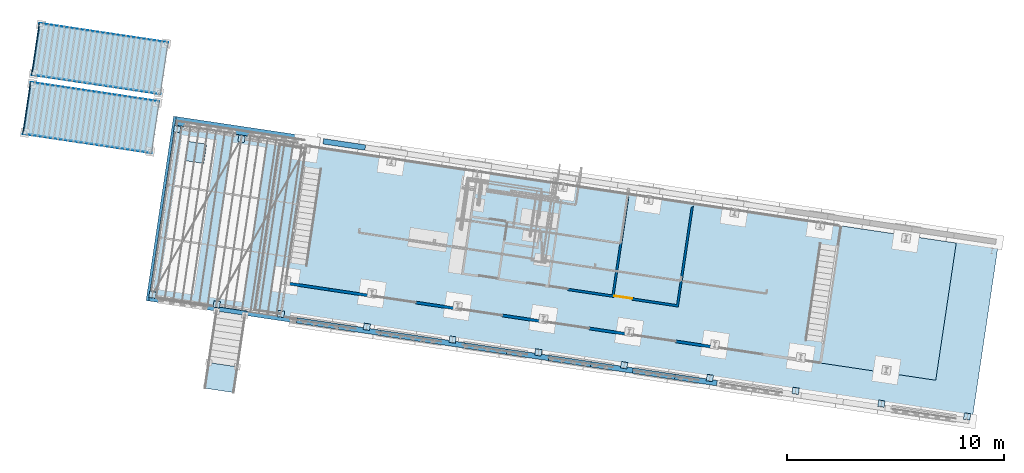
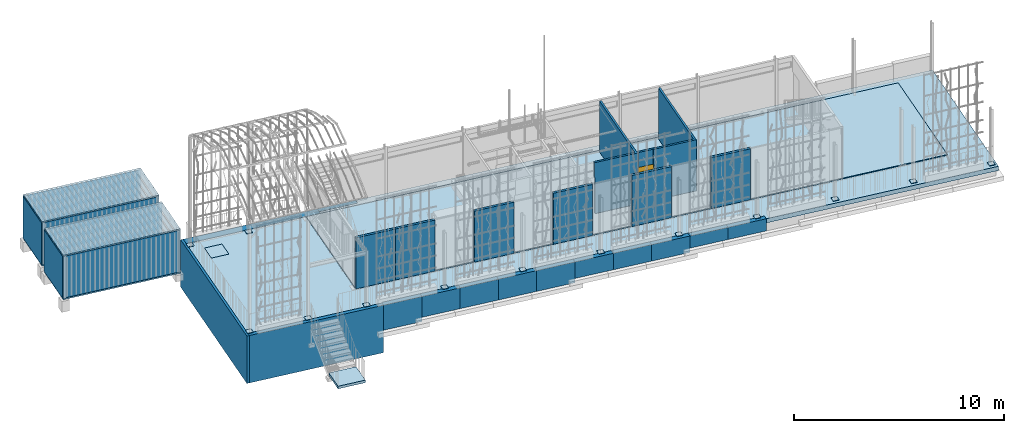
# One storey, part 129 of 142: 22 walls, 20 plates, 7 slabs, 1 door, 4 openings, 5 elements without a shape of their own.
"""IFC4 building model written with IfcOpenShell, lengths in metres."""

import ifcopenshell
import ifcopenshell.guid

model = None  # the IFC model being written
_history = None  # IfcOwnerHistory: only IFC2X3 demands one
_inside = {}  # id of a spatial element -> (the spatial element, [elements in it])
_under = {}  # id of a project, library or spatial element -> (it, [spatial elements below it])
_declared = {}  # id of a project -> (the project, [libraries it declares])
_typed = {}  # id of a type object -> (the type object, [elements of that type])
_made_of = {}  # id of a material, layer set ... -> (it, [elements and type objects made of it])


def new_model(schema):
    """Start an empty IFC model of exactly this schema.

    Asked for "IFC4X3", IfcOpenShell would pick the latest addendum, in which some entities
    have other attributes; the version numbers below select the first issue.
    IFC2X3 requires an IfcOwnerHistory on every rooted entity: one is made here for all.
    """
    global model, _history
    if schema == "IFC4X3":
        model = ifcopenshell.file(schema_version=(4, 3, 0, 0))
    else:
        model = ifcopenshell.file(schema=schema)
    _inside.clear()
    _under.clear()
    _declared.clear()
    _typed.clear()
    _made_of.clear()
    _history = None
    if model.schema == "IFC2X3":
        org = make("IfcOrganization", Name="unknown")
        user = make(
            "IfcPersonAndOrganization",
            ThePerson=make("IfcPerson", FamilyName="unknown"),
            TheOrganization=org,
        )
        app = make(
            "IfcApplication",
            ApplicationDeveloper=org,
            Version="unknown",
            ApplicationFullName="unknown",
            ApplicationIdentifier="unknown",
        )
        _history = make(
            "IfcOwnerHistory",
            OwningUser=user,
            OwningApplication=app,
            ChangeAction="ADDED",
            CreationDate=0,
        )
    return model


def make(cls, **values):
    """One entity of the class cls with the attributes given. An attribute that is None is left unset."""
    return model.create_entity(
        cls, **{name: value for name, value in values.items() if value is not None}
    )


def rooted(cls, **values):
    """An entity with a GlobalId (a new one), such as an element, a storey or a relation."""
    return make(cls, GlobalId=ifcopenshell.guid.new(), OwnerHistory=_history, **values)


def si_unit(unit_type, name, prefix=None):
    """IfcSIUnit, for example si_unit("LENGTHUNIT", "METRE", prefix="MILLI")."""
    return make("IfcSIUnit", UnitType=unit_type, Prefix=prefix, Name=name)


def assignment(units):
    """IfcUnitAssignment: the units of a project."""
    return None if units is None else make("IfcUnitAssignment", Units=units)


def point(xyz):
    """IfcCartesianPoint."""
    return None if xyz is None else make("IfcCartesianPoint", Coordinates=xyz)


def direction(xyz):
    """IfcDirection."""
    return None if xyz is None else make("IfcDirection", DirectionRatios=xyz)


def frame(location, z_axis=None, x_axis=None):
    """IfcAxis2Placement3D, a coordinate frame: its origin and axes. An axis left out is left unset."""
    return make(
        "IfcAxis2Placement3D",
        Location=point(location),
        Axis=direction(z_axis),
        RefDirection=direction(x_axis),
    )


def origin_with_axes():
    """The frame at (0, 0, 0) with the z axis (0, 0, 1) and the x axis (1, 0, 0) written out."""
    return frame((0.0, 0.0, 0.0), z_axis=(0.0, 0.0, 1.0), x_axis=(1.0, 0.0, 0.0))


def place(relative_to, where):
    """IfcLocalPlacement: puts the frame where relative to a parent placement (None: the world)."""
    return make(
        "IfcLocalPlacement", PlacementRelTo=relative_to, RelativePlacement=where
    )


def context(
    kind, dimensions, precision=None, world=None, true_north=None, identifier=None
):
    """IfcGeometricRepresentationContext, for example the 3D "Model" context."""
    return make(
        "IfcGeometricRepresentationContext",
        ContextIdentifier=identifier,
        ContextType=kind,
        CoordinateSpaceDimension=dimensions,
        Precision=precision,
        WorldCoordinateSystem=world,
        TrueNorth=true_north,
    )


def subcontext(parent, identifier, kind, view, scale=None):
    """IfcGeometricRepresentationSubContext, for example "Body" below "Model"."""
    return make(
        "IfcGeometricRepresentationSubContext",
        ContextIdentifier=identifier,
        ContextType=kind,
        ParentContext=parent,
        TargetScale=scale,
        TargetView=view,
    )


def project(units=None, contexts=None):
    """IfcProject with its units and contexts."""
    return rooted(
        "IfcProject",
        Name="project",
        RepresentationContexts=contexts,
        UnitsInContext=assignment(units),
    )


def spatial(cls, under=None, at=None, **own):
    """A site, building, storey or space (cls), placed at a placement, below another one or the project."""
    s = rooted(cls, ObjectPlacement=at, **own)
    if under is not None:
        _under.setdefault(under.id(), (under, []))[1].append(s)
    return s


def polyline(points):
    """IfcPolyline through the points."""
    return make("IfcPolyline", Points=[point(p) for p in points])


def outline(outer, holes=None, kind="AREA"):
    """IfcArbitraryClosedProfileDef: a profile drawn as a closed curve; with holes, ...WithVoids."""
    if holes is None:
        return make("IfcArbitraryClosedProfileDef", ProfileType=kind, OuterCurve=outer)
    return make(
        "IfcArbitraryProfileDefWithVoids",
        ProfileType=kind,
        OuterCurve=outer,
        InnerCurves=holes,
    )


def extrude(swept, where, along, depth):
    """IfcExtrudedAreaSolid: the profile swept, set in the frame where, extruded along a direction by depth."""
    return make(
        "IfcExtrudedAreaSolid",
        SweptArea=swept,
        Position=where,
        ExtrudedDirection=direction(along),
        Depth=depth,
    )


def shape(context_of_items, identifier, shape_type, items):
    """IfcShapeRepresentation: the items that make up one representation, for example the "Body"."""
    return make(
        "IfcShapeRepresentation",
        ContextOfItems=context_of_items,
        RepresentationIdentifier=identifier,
        RepresentationType=shape_type,
        Items=items,
    )


def material(Name=None, Category=None):
    """IfcMaterial."""
    return make("IfcMaterial", Name=Name, Category=Category)


def layer(
    of_material, thickness, ventilated=None, Name=None, Category=None, Priority=None
):
    """IfcMaterialLayer: one layer of a wall or slab, of a material (None: an air gap)."""
    return make(
        "IfcMaterialLayer",
        Material=of_material,
        LayerThickness=thickness,
        IsVentilated=ventilated,
        Name=Name,
        Category=Category,
        Priority=Priority,
    )


def layer_set(layers, Name=None):
    """IfcMaterialLayerSet."""
    return make("IfcMaterialLayerSet", MaterialLayers=layers, LayerSetName=Name)


def constituent(of_material, Name=None, Category=None, fraction=None):
    """IfcMaterialConstituent: one of the materials an element consists of."""
    return make(
        "IfcMaterialConstituent",
        Name=Name,
        Material=of_material,
        Fraction=fraction,
        Category=Category,
    )


def constituent_set(constituents=None, Name=None):
    """IfcMaterialConstituentSet."""
    return make(
        "IfcMaterialConstituentSet", Name=Name, MaterialConstituents=constituents
    )


def made_of(thing, what):
    """Note that an element or type object is made of a material, layer set ...; save() writes the relation."""
    if what is not None:
        _made_of.setdefault(what.id(), (what, []))[1].append(thing)
    return thing


def element(
    cls,
    number,
    at=None,
    inside=None,
    cuts=None,
    type_object=None,
    material=None,
    context=None,
    identifier="Body",
    shape_type=None,
    held_by="IfcProductDefinitionShape",
    body=None,
    shapes=None,
    **own,
):
    """One element of the class cls, such as IfcWall. Its Tag is "e" and its number.

    at: its placement. inside: the storey or other place that contains it. cuts: it is an
    opening in that element (IfcRelVoidsElement). A single representation is given by context,
    identifier, shape_type and body (its items); several are given by shapes. held_by: the class
    of the entity that holds the representations. save() writes the other relations.
    """
    e = rooted(cls, Tag="e%d" % number, ObjectPlacement=at, **own)
    if body is not None:
        shapes = [shape(context, identifier, shape_type, body)]
    if shapes is not None:
        e.Representation = make(held_by, Representations=shapes)
    if inside is not None:
        _inside.setdefault(inside.id(), (inside, []))[1].append(e)
    if cuts is not None:
        rooted(
            "IfcRelVoidsElement", RelatingBuildingElement=cuts, RelatedOpeningElement=e
        )
    if type_object is not None:
        _typed.setdefault(type_object.id(), (type_object, []))[1].append(e)
    return made_of(e, material)


def fill(opening, filler):
    """IfcRelFillsElement: the door or window that sits in an opening."""
    return rooted(
        "IfcRelFillsElement",
        RelatingOpeningElement=opening,
        RelatedBuildingElement=filler,
    )


def aggregate(whole, parts):
    """IfcRelAggregates: a whole, such as a stair, and the parts it consists of."""
    return rooted("IfcRelAggregates", RelatingObject=whole, RelatedObjects=parts)


def save(model, path):
    """Write the relations noted so far, then the file.

    IfcRelAggregates (storeys below a building ...), IfcRelContainedInSpatialStructure (elements
    in a storey), IfcRelDefinesByType, IfcRelAssociatesMaterial and IfcRelDeclares: one each for
    every whole, place, type object, material and project.
    """
    for whole, parts in _under.values():
        aggregate(whole, parts)
    for where, things in _inside.values():
        rooted(
            "IfcRelContainedInSpatialStructure",
            RelatedElements=things,
            RelatingStructure=where,
        )
    for kind, things in _typed.values():
        rooted("IfcRelDefinesByType", RelatedObjects=things, RelatingType=kind)
    for what, things in _made_of.values():
        rooted("IfcRelAssociatesMaterial", RelatedObjects=things, RelatingMaterial=what)
    for by, libraries in _declared.values():
        rooted("IfcRelDeclares", RelatingContext=by, RelatedDefinitions=libraries)
    model.write(path)


model = new_model("IFC4")

# Units and contexts
model_context = context("Model", 3, precision=1e-05, world=origin_with_axes(), true_north=direction((0.0, 1.0)))
body_context = subcontext(model_context, "Body", "Model", "MODEL_VIEW")
ifc_project = project(units=[si_unit("VOLUMEUNIT", "CUBIC_METRE"), si_unit("LENGTHUNIT", "METRE"), si_unit("AREAUNIT", "SQUARE_METRE")], contexts=[model_context])

# Site, building, storey
site_placement = place(None, origin_with_axes())
site = spatial("IfcSite", under=ifc_project, at=site_placement, Name="Lares · Rua das Mercês · artigo 4771")
building_placement = place(site_placement, frame((12.0, 10.2, 13.9), z_axis=(0.0, 0.0, 1.0), x_axis=(0.989015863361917, -0.147809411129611, 0.0)))
building = spatial("IfcBuilding", under=site, at=building_placement, Name="Casa Sobreposta")
storey_placement = place(building_placement, origin_with_axes())
storey = spatial("IfcBuildingStorey", under=building, at=storey_placement, Name="00 · Habitação e estacionamento", Elevation=13.9)

# Assembly, slabs, opening, plate
assembly_1_placement = place(storey_placement, origin_with_axes())
assembly_1 = element("IfcElementAssembly", 1, at=assembly_1_placement, inside=storey, Name="Pódio · projeção da estufa e cisterna", ObjectType="CISTERN_PODIUM", PredefinedType="USERDEFINED")
ifc_material_1 = material(Name="Betão armado / Stahlbeton", Category="concrete")
slab_1_placement = place(assembly_1_placement, frame((0.0, 0.0, -0.25), z_axis=(0.0, 0.0, 1.0), x_axis=(1.0, 0.0, 0.0)))
slab_1 = element("IfcSlab", 2, at=slab_1_placement, material=ifc_material_1, Name="Pódio · laje da casa 250 mm", PredefinedType="FLOOR", context=body_context, shape_type="SweptSolid", body=[
    extrude(outline(polyline([(30.32, 0.0), (30.32, 6.4), (0.0, 6.4), (0.0, 0.0), (30.32, 0.0)])), origin_with_axes(), (0.0, 0.0, 1.0), 0.25),
])
slab_2_placement = place(assembly_1_placement, frame((0.0, 0.0, -0.29), z_axis=(0.0, 0.0, 1.0), x_axis=(1.0, 0.0, 0.0)))
slab_2 = element("IfcSlab", 3, at=slab_2_placement, material=ifc_material_1, Name="Pódio · terraço e faixa sob projeção da estufa", PredefinedType="FLOOR", context=body_context, shape_type="SweptSolid", body=[
    extrude(outline(polyline([(-6.25, -1.75), (-6.25, 6.85), (32.25, 6.85), (32.25, -1.75), (-6.25, -1.75)]), holes=[polyline([(30.32, 6.4), (0.0, 6.4), (0.0, 0.0), (30.32, 0.0), (30.32, 6.4)])]), origin_with_axes(), (0.0, 0.0, 1.0), 0.25),
])
opening_1_placement = place(slab_2_placement, frame((0.0, 0.0, -0.06), z_axis=(0.0, 0.0, 1.0), x_axis=(1.0, 0.0, 0.0)))
element("IfcOpeningElement", 4, at=opening_1_placement, cuts=slab_2, Name="Cisterna · abertura de inspeção", PredefinedType="OPENING", context=body_context, shape_type="SweptSolid", body=[
    extrude(outline(polyline([(-4.55, 4.9), (-4.55, 5.8), (-5.45, 5.8), (-5.45, 4.9), (-4.55, 4.9)])), origin_with_axes(), (0.0, 0.0, 1.0), 0.4),
])
ifc_material_2 = material(Name="Aço galvanizado / Stahl verzinkt", Category="steel")
plate_1_placement = place(assembly_1_placement, frame((0.0, 0.0, -0.085), z_axis=(0.0, 0.0, 1.0), x_axis=(1.0, 0.0, 0.0)))
plate_1 = element("IfcPlate", 5, at=plate_1_placement, material=ifc_material_2, Name="Cisterna · tampa estanque de inspeção", PredefinedType="SHEET", context=body_context, shape_type="SweptSolid", body=[
    extrude(outline(polyline([(-4.55, 4.9), (-4.55, 5.8), (-5.45, 5.8), (-5.45, 4.9), (-4.55, 4.9)])), origin_with_axes(), (0.0, 0.0, 1.0), 0.045),
])

# Stair, slab
stair_placement = place(storey_placement, origin_with_axes())
stair = element("IfcStair", 6, at=stair_placement, inside=storey, Name="Jardim · acesso do terraço", PredefinedType="STRAIGHT_RUN_STAIR")
slab_3_placement = place(stair_placement, frame((0.0, 0.0, -1.6), z_axis=(0.0, 0.0, 1.0), x_axis=(1.0, 0.0, 0.0)))
slab_3 = element("IfcSlab", 7, at=slab_3_placement, material=ifc_material_1, Name="Jardim · patamar térreo", PredefinedType="LANDING", context=body_context, shape_type="SweptSolid", body=[
    extrude(outline(polyline([(-1.6, -5.35), (-1.6, -4.15), (-3.0, -4.15), (-3.0, -5.35), (-1.6, -5.35)])), origin_with_axes(), (0.0, 0.0, 1.0), 0.15),
])
aggregate(stair, [slab_3])

# Assembly, plates
assembly_2_placement = place(storey_placement, origin_with_axes())
assembly_2 = element("IfcElementAssembly", 8, at=assembly_2_placement, inside=storey, Name="Pérgola · prolongamento da estufa 6 m", ObjectType="PERGOLA_GREENHOUSE_EXTENSION", PredefinedType="USERDEFINED")
plate_2_placement = place(assembly_2_placement, frame((0.0, 0.0, -0.04), z_axis=(0.0, 0.0, 1.0), x_axis=(1.0, 0.0, 0.0)))
plate_2 = element("IfcPlate", 9, at=plate_2_placement, material=ifc_material_2, Name="Pérgola · chapa de ancoragem", PredefinedType="SHEET", context=body_context, shape_type="SweptSolid", body=[
    extrude(outline(polyline([(-5.85, -1.59), (-5.85, -1.29), (-6.15, -1.29), (-6.15, -1.59), (-5.85, -1.59)])), origin_with_axes(), (0.0, 0.0, 1.0), 0.025),
])
plate_3_placement = place(assembly_2_placement, frame((0.0, 0.0, -0.04), z_axis=(0.0, 0.0, 1.0), x_axis=(1.0, 0.0, 0.0)))
plate_3 = element("IfcPlate", 10, at=plate_3_placement, material=ifc_material_2, Name="Pérgola · chapa de ancoragem", PredefinedType="SHEET", context=body_context, shape_type="SweptSolid", body=[
    extrude(outline(polyline([(-5.85, 6.13), (-5.85, 6.43), (-6.15, 6.43), (-6.15, 6.13), (-5.85, 6.13)])), origin_with_axes(), (0.0, 0.0, 1.0), 0.025),
])
plate_4_placement = place(assembly_2_placement, frame((0.0, 0.0, -0.04), z_axis=(0.0, 0.0, 1.0), x_axis=(1.0, 0.0, 0.0)))
plate_4 = element("IfcPlate", 11, at=plate_4_placement, material=ifc_material_2, Name="Pérgola · chapa de ancoragem", PredefinedType="SHEET", context=body_context, shape_type="SweptSolid", body=[
    extrude(outline(polyline([(-2.85, -1.59), (-2.85, -1.29), (-3.15, -1.29), (-3.15, -1.59), (-2.85, -1.59)])), origin_with_axes(), (0.0, 0.0, 1.0), 0.025),
])
plate_5_placement = place(assembly_2_placement, frame((0.0, 0.0, -0.04), z_axis=(0.0, 0.0, 1.0), x_axis=(1.0, 0.0, 0.0)))
plate_5 = element("IfcPlate", 12, at=plate_5_placement, material=ifc_material_2, Name="Pérgola · chapa de ancoragem", PredefinedType="SHEET", context=body_context, shape_type="SweptSolid", body=[
    extrude(outline(polyline([(-2.85, 6.13), (-2.85, 6.43), (-3.15, 6.43), (-3.15, 6.13), (-2.85, 6.13)])), origin_with_axes(), (0.0, 0.0, 1.0), 0.025),
])
aggregate(assembly_2, [plate_2, plate_3, plate_4, plate_5])

# Plates
plate_6_placement = place(storey_placement, frame((0.0, 0.0, -0.04), z_axis=(0.0, 0.0, 1.0), x_axis=(1.0, 0.0, 0.0)))
element("IfcPlate", 13, at=plate_6_placement, inside=storey, material=ifc_material_2, Name="Projeção estufa · chapa de ancoragem", PredefinedType="SHEET", context=body_context, shape_type="SweptSolid", body=[
    extrude(outline(polyline([(0.15, -1.59), (0.15, -1.29), (-0.15, -1.29), (-0.15, -1.59), (0.15, -1.59)])), origin_with_axes(), (0.0, 0.0, 1.0), 0.025),
])
plate_7_placement = place(storey_placement, frame((0.0, 0.0, -0.04), z_axis=(0.0, 0.0, 1.0), x_axis=(1.0, 0.0, 0.0)))
element("IfcPlate", 14, at=plate_7_placement, inside=storey, material=ifc_material_2, Name="Projeção estufa · chapa de ancoragem", PredefinedType="SHEET", context=body_context, shape_type="SweptSolid", body=[
    extrude(outline(polyline([(4.15, -1.59), (4.15, -1.29), (3.85, -1.29), (3.85, -1.59), (4.15, -1.59)])), origin_with_axes(), (0.0, 0.0, 1.0), 0.025),
])
plate_8_placement = place(storey_placement, frame((0.0, 0.0, -0.04), z_axis=(0.0, 0.0, 1.0), x_axis=(1.0, 0.0, 0.0)))
element("IfcPlate", 15, at=plate_8_placement, inside=storey, material=ifc_material_2, Name="Projeção estufa · chapa de ancoragem", PredefinedType="SHEET", context=body_context, shape_type="SweptSolid", body=[
    extrude(outline(polyline([(8.15, -1.59), (8.15, -1.29), (7.85, -1.29), (7.85, -1.59), (8.15, -1.59)])), origin_with_axes(), (0.0, 0.0, 1.0), 0.025),
])
plate_9_placement = place(storey_placement, frame((0.0, 0.0, -0.04), z_axis=(0.0, 0.0, 1.0), x_axis=(1.0, 0.0, 0.0)))
element("IfcPlate", 16, at=plate_9_placement, inside=storey, material=ifc_material_2, Name="Projeção estufa · chapa de ancoragem", PredefinedType="SHEET", context=body_context, shape_type="SweptSolid", body=[
    extrude(outline(polyline([(12.15, -1.59), (12.15, -1.29), (11.85, -1.29), (11.85, -1.59), (12.15, -1.59)])), origin_with_axes(), (0.0, 0.0, 1.0), 0.025),
])
plate_10_placement = place(storey_placement, frame((0.0, 0.0, -0.04), z_axis=(0.0, 0.0, 1.0), x_axis=(1.0, 0.0, 0.0)))
element("IfcPlate", 17, at=plate_10_placement, inside=storey, material=ifc_material_2, Name="Projeção estufa · chapa de ancoragem", PredefinedType="SHEET", context=body_context, shape_type="SweptSolid", body=[
    extrude(outline(polyline([(16.15, -1.59), (16.15, -1.29), (15.85, -1.29), (15.85, -1.59), (16.15, -1.59)])), origin_with_axes(), (0.0, 0.0, 1.0), 0.025),
])
plate_11_placement = place(storey_placement, frame((0.0, 0.0, -0.04), z_axis=(0.0, 0.0, 1.0), x_axis=(1.0, 0.0, 0.0)))
element("IfcPlate", 18, at=plate_11_placement, inside=storey, material=ifc_material_2, Name="Projeção estufa · chapa de ancoragem", PredefinedType="SHEET", context=body_context, shape_type="SweptSolid", body=[
    extrude(outline(polyline([(20.15, -1.59), (20.15, -1.29), (19.85, -1.29), (19.85, -1.59), (20.15, -1.59)])), origin_with_axes(), (0.0, 0.0, 1.0), 0.025),
])
plate_12_placement = place(storey_placement, frame((0.0, 0.0, -0.04), z_axis=(0.0, 0.0, 1.0), x_axis=(1.0, 0.0, 0.0)))
element("IfcPlate", 19, at=plate_12_placement, inside=storey, material=ifc_material_2, Name="Projeção estufa · chapa de ancoragem", PredefinedType="SHEET", context=body_context, shape_type="SweptSolid", body=[
    extrude(outline(polyline([(24.15, -1.59), (24.15, -1.29), (23.85, -1.29), (23.85, -1.59), (24.15, -1.59)])), origin_with_axes(), (0.0, 0.0, 1.0), 0.025),
])
plate_13_placement = place(storey_placement, frame((0.0, 0.0, -0.04), z_axis=(0.0, 0.0, 1.0), x_axis=(1.0, 0.0, 0.0)))
element("IfcPlate", 20, at=plate_13_placement, inside=storey, material=ifc_material_2, Name="Projeção estufa · chapa de ancoragem", PredefinedType="SHEET", context=body_context, shape_type="SweptSolid", body=[
    extrude(outline(polyline([(28.15, -1.59), (28.15, -1.29), (27.85, -1.29), (27.85, -1.59), (28.15, -1.59)])), origin_with_axes(), (0.0, 0.0, 1.0), 0.025),
])
plate_14_placement = place(storey_placement, frame((0.0, 0.0, -0.04), z_axis=(0.0, 0.0, 1.0), x_axis=(1.0, 0.0, 0.0)))
element("IfcPlate", 21, at=plate_14_placement, inside=storey, material=ifc_material_2, Name="Projeção estufa · chapa de ancoragem", PredefinedType="SHEET", context=body_context, shape_type="SweptSolid", body=[
    extrude(outline(polyline([(32.15, -1.59), (32.15, -1.29), (31.85, -1.29), (31.85, -1.59), (32.15, -1.59)])), origin_with_axes(), (0.0, 0.0, 1.0), 0.025),
])

# Assembly, slabs, plates
assembly_3_placement = place(storey_placement, origin_with_axes())
assembly_3 = element("IfcElementAssembly", 22, at=assembly_3_placement, inside=storey, ObjectType="EXISTING_SHIPPING_CONTAINER", PredefinedType="USERDEFINED")
ifc_material_3 = material(Name="Contentor · pintura 1", Category="steel")
slab_4_placement = place(assembly_3_placement, frame((0.0, 0.0, -0.594226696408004), z_axis=(0.0, 0.0, 1.0), x_axis=(1.0, 0.0, 0.0)))
slab_4 = element("IfcSlab", 23, at=slab_4_placement, material=ifc_material_3, Name="Contentor · piso ou teto", PredefinedType="FLOOR", context=body_context, shape_type="SweptSolid", body=[
    extrude(outline(polyline([(-7.0, 5.0), (-7.0, 7.44), (-13.0, 7.44), (-13.0, 5.0), (-7.0, 5.0)])), origin_with_axes(), (0.0, 0.0, 1.0), 0.08),
])
slab_5_placement = place(assembly_3_placement, frame((0.0, 0.0, 1.915773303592), z_axis=(0.0, 0.0, 1.0), x_axis=(1.0, 0.0, 0.0)))
slab_5 = element("IfcSlab", 24, at=slab_5_placement, material=ifc_material_3, Name="Contentor · piso ou teto", PredefinedType="FLOOR", context=body_context, shape_type="SweptSolid", body=[
    extrude(outline(polyline([(-7.0, 5.0), (-7.0, 7.44), (-13.0, 7.44), (-13.0, 5.0), (-7.0, 5.0)])), origin_with_axes(), (0.0, 0.0, 1.0), 0.08),
])
plate_15_placement = place(assembly_3_placement, frame((0.0, 0.0, -0.514226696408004), z_axis=(0.0, 0.0, 1.0), x_axis=(1.0, 0.0, 0.0)))
plate_15 = element("IfcPlate", 25, at=plate_15_placement, material=ifc_material_3, Name="Contentor · chapa lateral", context=body_context, shape_type="SweptSolid", body=[
    extrude(outline(polyline([(-7.0, 5.0325), (-7.0, 5.0075), (-13.0, 5.0075), (-13.0, 5.0325), (-7.0, 5.0325)])), origin_with_axes(), (0.0, 0.0, 1.0), 2.43),
])
plate_16_placement = place(assembly_3_placement, frame((0.0, 0.0, -0.514226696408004), z_axis=(0.0, 0.0, 1.0), x_axis=(1.0, 0.0, 0.0)))
plate_16 = element("IfcPlate", 26, at=plate_16_placement, material=ifc_material_3, Name="Contentor · chapa lateral", context=body_context, shape_type="SweptSolid", body=[
    extrude(outline(polyline([(-7.0, 7.4325), (-7.0, 7.4075), (-13.0, 7.4075), (-13.0, 7.4325), (-7.0, 7.4325)])), origin_with_axes(), (0.0, 0.0, 1.0), 2.43),
])
plate_17_placement = place(assembly_3_placement, frame((0.0, 0.0, -0.514226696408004), z_axis=(0.0, 0.0, 1.0), x_axis=(1.0, 0.0, 0.0)))
plate_17 = element("IfcPlate", 27, at=plate_17_placement, material=ifc_material_3, Name="Contentor · chapa de fundo", context=body_context, shape_type="SweptSolid", body=[
    extrude(outline(polyline([(-13.025, 7.44), (-12.975, 7.44), (-12.975, 5.0), (-13.025, 5.0), (-13.025, 7.44)])), origin_with_axes(), (0.0, 0.0, 1.0), 2.43),
])
aggregate(assembly_3, [slab_4, slab_5, plate_15, plate_16, plate_17])

assembly_4_placement = place(storey_placement, origin_with_axes())
assembly_4 = element("IfcElementAssembly", 28, at=assembly_4_placement, inside=storey, ObjectType="EXISTING_SHIPPING_CONTAINER", PredefinedType="USERDEFINED")
ifc_material_4 = material(Name="Contentor · pintura 2", Category="steel")
slab_6_placement = place(assembly_4_placement, frame((0.0, 0.0, -0.429831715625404), z_axis=(0.0, 0.0, 1.0), x_axis=(1.0, 0.0, 0.0)))
slab_6 = element("IfcSlab", 29, at=slab_6_placement, material=ifc_material_4, Name="Contentor · piso ou teto", PredefinedType="FLOOR", context=body_context, shape_type="SweptSolid", body=[
    extrude(outline(polyline([(-7.0, 7.75), (-7.0, 10.19), (-13.0, 10.19), (-13.0, 7.75), (-7.0, 7.75)])), origin_with_axes(), (0.0, 0.0, 1.0), 0.08),
])
slab_7_placement = place(assembly_4_placement, frame((0.0, 0.0, 2.0801682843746), z_axis=(0.0, 0.0, 1.0), x_axis=(1.0, 0.0, 0.0)))
slab_7 = element("IfcSlab", 30, at=slab_7_placement, material=ifc_material_4, Name="Contentor · piso ou teto", PredefinedType="FLOOR", context=body_context, shape_type="SweptSolid", body=[
    extrude(outline(polyline([(-7.0, 7.75), (-7.0, 10.19), (-13.0, 10.19), (-13.0, 7.75), (-7.0, 7.75)])), origin_with_axes(), (0.0, 0.0, 1.0), 0.08),
])
plate_18_placement = place(assembly_4_placement, frame((0.0, 0.0, -0.349831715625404), z_axis=(0.0, 0.0, 1.0), x_axis=(1.0, 0.0, 0.0)))
plate_18 = element("IfcPlate", 31, at=plate_18_placement, material=ifc_material_4, Name="Contentor · chapa lateral", context=body_context, shape_type="SweptSolid", body=[
    extrude(outline(polyline([(-7.0, 7.7825), (-7.0, 7.7575), (-13.0, 7.7575), (-13.0, 7.7825), (-7.0, 7.7825)])), origin_with_axes(), (0.0, 0.0, 1.0), 2.43),
])
plate_19_placement = place(assembly_4_placement, frame((0.0, 0.0, -0.349831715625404), z_axis=(0.0, 0.0, 1.0), x_axis=(1.0, 0.0, 0.0)))
plate_19 = element("IfcPlate", 32, at=plate_19_placement, material=ifc_material_4, Name="Contentor · chapa lateral", context=body_context, shape_type="SweptSolid", body=[
    extrude(outline(polyline([(-7.0, 10.1825), (-7.0, 10.1575), (-13.0, 10.1575), (-13.0, 10.1825), (-7.0, 10.1825)])), origin_with_axes(), (0.0, 0.0, 1.0), 2.43),
])
plate_20_placement = place(assembly_4_placement, frame((0.0, 0.0, -0.349831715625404), z_axis=(0.0, 0.0, 1.0), x_axis=(1.0, 0.0, 0.0)))
plate_20 = element("IfcPlate", 33, at=plate_20_placement, material=ifc_material_4, Name="Contentor · chapa de fundo", context=body_context, shape_type="SweptSolid", body=[
    extrude(outline(polyline([(-13.025, 10.19), (-12.975, 10.19), (-12.975, 7.75), (-13.025, 7.75), (-13.025, 10.19)])), origin_with_axes(), (0.0, 0.0, 1.0), 2.43),
])
aggregate(assembly_4, [slab_6, slab_7, plate_18, plate_19, plate_20])

# Wall, openings, door
ifc_material_5 = material(Name="OSB", Category="wood")
ifc_constituent_1 = constituent(ifc_material_5, Name="osb")
ifc_material_6 = material(Name="Lã mineral / Mineralwolle 2", Category="mineral wool")
ifc_constituent_2 = constituent(ifc_material_6, Name="wool")
ifc_constituent_set_1 = constituent_set(constituents=[ifc_constituent_1, ifc_constituent_2], Name="OSB22 / lã mineral / OSB22")
wall_1_placement = place(storey_placement, origin_with_axes())
wall_1 = element("IfcWall", 34, at=wall_1_placement, inside=storey, material=ifc_constituent_set_1, Name="Divisória 3 · OSB 22 mm nas duas faces", context=body_context, shape_type="SweptSolid", body=[
    extrude(outline(polyline([(15.07, 6.27299999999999), (15.07, 1.70993390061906), (15.9846265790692, 1.71008560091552), (15.9846448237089, 1.60008560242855), (15.1199999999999, 1.59994219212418), (15.1199999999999, 1.57999999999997), (12.8699999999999, 1.57999999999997), (12.8699999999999, 1.68999999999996), (14.97, 1.68999999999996), (14.97, 6.27299999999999), (15.07, 6.27299999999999)]), holes=[polyline([(14.992, 1.66799999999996), (12.8919999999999, 1.66799999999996), (12.8919999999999, 1.60199999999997), (15.0979999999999, 1.60199999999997), (15.0979999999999, 1.6219385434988), (15.9626411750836, 1.62208195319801), (15.9626302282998, 1.68808195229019), (15.048, 1.68793025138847), (15.048, 6.25099999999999), (14.992, 6.25099999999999), (14.992, 1.66799999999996)])]), origin_with_axes(), (0.0, 0.0, 1.0), 2.968),
    extrude(outline(polyline([(14.992, 6.25099999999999), (15.048, 6.25099999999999), (15.048, 1.68793025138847), (15.9626302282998, 1.68808195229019), (15.9626411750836, 1.62208195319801), (15.0979999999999, 1.6219385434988), (15.0979999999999, 1.60199999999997), (12.8919999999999, 1.60199999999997), (12.8919999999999, 1.66799999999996), (14.992, 1.66799999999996), (14.992, 6.25099999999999)])), origin_with_axes(), (0.0, 0.0, 1.0), 2.968),
])
opening_2_placement = place(wall_1_placement, origin_with_axes())
opening_2 = element("IfcOpeningElement", 35, at=opening_2_placement, cuts=wall_1, PredefinedType="OPENING", context=body_context, shape_type="SweptSolid", body=[
    extrude(outline(polyline([(15.9146091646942, 1.81507398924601), (15.9146622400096, 1.49507399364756), (15.0845696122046, 1.49493631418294), (15.0845165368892, 1.8149363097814), (15.9146091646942, 1.81507398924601)])), origin_with_axes(), (0.0, 0.0, 1.0), 2.1),
])
opening_3_placement = place(wall_1_placement, origin_with_axes())
element("IfcOpeningElement", 36, at=opening_3_placement, cuts=wall_1, PredefinedType="OPENING", context=body_context, shape_type="SweptSolid", body=[
    extrude(outline(polyline([(12.9045964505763, 1.81507398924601), (12.9046495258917, 1.49507399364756), (12.0745568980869, 1.49493631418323), (12.0745038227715, 1.81493630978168), (12.9045964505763, 1.81507398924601)])), origin_with_axes(), (0.0, 0.0, 1.0), 2.1),
])
door_placement = place(storey_placement, origin_with_axes())
door = element("IfcDoor", 37, at=door_placement, inside=storey, material=ifc_material_5, Name="Porta interior 1", OperationType="SINGLE_SWING_LEFT", OverallHeight=2.1, OverallWidth=0.830092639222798, PredefinedType="DOOR", context=body_context, shape_type="SweptSolid", body=[
    extrude(outline(polyline([(15.9146327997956, 1.67257399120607), (15.9146386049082, 1.63757399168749), (15.0845459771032, 1.63743631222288), (15.0845401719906, 1.67243631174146), (15.9146327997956, 1.67257399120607)])), origin_with_axes(), (0.0, 0.0, 1.0), 2.1),
])
fill(opening_2, door)

# Wall, opening
ifc_constituent_3 = constituent(ifc_material_5, Name="osb")
ifc_constituent_4 = constituent(ifc_material_6, Name="wool")
ifc_constituent_set_2 = constituent_set(constituents=[ifc_constituent_3, ifc_constituent_4], Name="OSB22 / lã mineral / OSB22")
wall_2_placement = place(storey_placement, origin_with_axes())
wall_2 = element("IfcWall", 38, at=wall_2_placement, inside=storey, material=ifc_constituent_set_2, Name="Divisória 4 · OSB 22 mm nas duas faces", context=body_context, shape_type="SweptSolid", body=[
    extrude(outline(polyline([(17.98, 6.21236749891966), (18.0799999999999, 6.29570083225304), (18.0799999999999, 1.57999999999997), (15.8799999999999, 1.57999999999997), (15.8799999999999, 1.68999999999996), (17.98, 1.68999999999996), (17.98, 6.21236749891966)]), holes=[polyline([(15.9019999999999, 1.66799999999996), (15.9019999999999, 1.60199999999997), (18.0579999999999, 1.60199999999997), (18.0579999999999, 6.24872991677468), (18.002, 6.202063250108), (18.002, 1.66799999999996), (15.9019999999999, 1.66799999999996)])]), origin_with_axes(), (0.0, 0.0, 1.0), 2.968),
    extrude(outline(polyline([(18.002, 1.66799999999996), (18.002, 6.202063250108), (18.0579999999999, 6.24872991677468), (18.0579999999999, 1.60199999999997), (15.9019999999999, 1.60199999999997), (15.9019999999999, 1.66799999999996), (18.002, 1.66799999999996)])), origin_with_axes(), (0.0, 0.0, 1.0), 2.968),
])
opening_4_placement = place(wall_2_placement, origin_with_axes())
element("IfcOpeningElement", 39, at=opening_4_placement, cuts=wall_2, PredefinedType="OPENING", context=body_context, shape_type="SweptSolid", body=[
    extrude(outline(polyline([(15.9146091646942, 1.81507398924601), (15.9146622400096, 1.49507399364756), (15.0845696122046, 1.49493631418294), (15.0845165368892, 1.8149363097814), (15.9146091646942, 1.81507398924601)])), origin_with_axes(), (0.0, 0.0, 1.0), 2.1),
])

# Walls
ifc_material_7 = material(Name="Aço pintado / Stahl lackiert", Category="steel")
ifc_layer_1 = layer(ifc_material_7, 0.005, Name="steel")
ifc_layer_2 = layer(ifc_material_6, 0.12, Name="wool")
ifc_layer_3 = layer(ifc_material_7, 0.00516, Name="steel")
ifc_layer_set_1 = layer_set([ifc_layer_1, ifc_layer_2, ifc_layer_3], Name="Casa DFL sandwich · 130.16 mm")
wall_3_placement = place(storey_placement, origin_with_axes())
element("IfcWall", 40, at=wall_3_placement, inside=storey, material=ifc_layer_set_1, Name="Painel opaco sul 0", context=body_context, shape_type="SweptSolid", body=[
    extrude(outline(polyline([(2.02133333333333, 0.06508), (2.02133333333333, -0.06508), (0.0, -0.06508), (0.0, 0.06508), (2.02133333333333, 0.06508)])), origin_with_axes(), (0.0, 0.0, 1.0), 2.968),
])
ifc_layer_4 = layer(ifc_material_7, 0.005, Name="steel")
ifc_layer_5 = layer(ifc_material_6, 0.12, Name="wool")
ifc_layer_6 = layer(ifc_material_7, 0.00516, Name="steel")
ifc_layer_set_2 = layer_set([ifc_layer_4, ifc_layer_5, ifc_layer_6], Name="Casa DFL sandwich · 130.16 mm")
wall_4_placement = place(storey_placement, origin_with_axes())
element("IfcWall", 41, at=wall_4_placement, inside=storey, material=ifc_layer_set_2, Name="Painel opaco sul 1", context=body_context, shape_type="SweptSolid", body=[
    extrude(outline(polyline([(4.04266666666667, 0.06508), (4.04266666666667, -0.06508), (2.02133333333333, -0.06508), (2.02133333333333, 0.06508), (4.04266666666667, 0.06508)])), origin_with_axes(), (0.0, 0.0, 1.0), 2.968),
])
ifc_layer_7 = layer(ifc_material_7, 0.005, Name="steel")
ifc_layer_8 = layer(ifc_material_6, 0.12, Name="wool")
ifc_layer_9 = layer(ifc_material_7, 0.00516, Name="steel")
ifc_layer_set_3 = layer_set([ifc_layer_7, ifc_layer_8, ifc_layer_9], Name="Casa DFL sandwich · 130.16 mm")
wall_5_placement = place(storey_placement, origin_with_axes())
element("IfcWall", 42, at=wall_5_placement, inside=storey, material=ifc_layer_set_3, Name="Painel opaco sul 3", context=body_context, shape_type="SweptSolid", body=[
    extrude(outline(polyline([(8.08533333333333, 0.06508), (8.08533333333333, -0.06508), (6.064, -0.06508), (6.064, 0.06508), (8.08533333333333, 0.06508)])), origin_with_axes(), (0.0, 0.0, 1.0), 2.968),
])
ifc_layer_10 = layer(ifc_material_7, 0.005, Name="steel")
ifc_layer_11 = layer(ifc_material_6, 0.12, Name="wool")
ifc_layer_12 = layer(ifc_material_7, 0.00516, Name="steel")
ifc_layer_set_4 = layer_set([ifc_layer_10, ifc_layer_11, ifc_layer_12], Name="Casa DFL sandwich · 130.16 mm")
wall_6_placement = place(storey_placement, origin_with_axes())
element("IfcWall", 43, at=wall_6_placement, inside=storey, material=ifc_layer_set_4, Name="Painel opaco sul 5", context=body_context, shape_type="SweptSolid", body=[
    extrude(outline(polyline([(12.128, 0.06508), (12.128, -0.06508), (10.1066666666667, -0.06508), (10.1066666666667, 0.06508), (12.128, 0.06508)])), origin_with_axes(), (0.0, 0.0, 1.0), 2.968),
])
ifc_layer_13 = layer(ifc_material_7, 0.005, Name="steel")
ifc_layer_14 = layer(ifc_material_6, 0.12, Name="wool")
ifc_layer_15 = layer(ifc_material_7, 0.00516, Name="steel")
ifc_layer_set_5 = layer_set([ifc_layer_13, ifc_layer_14, ifc_layer_15], Name="Casa DFL sandwich · 130.16 mm")
wall_7_placement = place(storey_placement, origin_with_axes())
element("IfcWall", 44, at=wall_7_placement, inside=storey, material=ifc_layer_set_5, Name="Painel opaco sul 7", context=body_context, shape_type="SweptSolid", body=[
    extrude(outline(polyline([(16.1706666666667, 0.06508), (16.1706666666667, -0.06508), (14.1493333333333, -0.06508), (14.1493333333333, 0.06508), (16.1706666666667, 0.06508)])), origin_with_axes(), (0.0, 0.0, 1.0), 2.968),
])
ifc_layer_16 = layer(ifc_material_7, 0.005, Name="steel")
ifc_layer_17 = layer(ifc_material_6, 0.12, Name="wool")
ifc_layer_18 = layer(ifc_material_7, 0.00516, Name="steel")
ifc_layer_set_6 = layer_set([ifc_layer_16, ifc_layer_17, ifc_layer_18], Name="Casa DFL sandwich · 130.16 mm")
wall_8_placement = place(storey_placement, origin_with_axes())
element("IfcWall", 45, at=wall_8_placement, inside=storey, material=ifc_layer_set_6, Name="Painel opaco sul 9", context=body_context, shape_type="SweptSolid", body=[
    extrude(outline(polyline([(20.2133333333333, 0.06508), (20.2133333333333, -0.06508), (18.192, -0.06508), (18.192, 0.06508), (20.2133333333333, 0.06508)])), origin_with_axes(), (0.0, 0.0, 1.0), 2.968),
])

# Wall
wall_9_placement = place(assembly_1_placement, frame((0.0, 0.0, -1.5), z_axis=(0.0, 0.0, 1.0), x_axis=(1.0, 0.0, 0.0)))
wall_9 = element("IfcWall", 46, at=wall_9_placement, material=ifc_material_1, Name="Pódio · contenção sul", ObjectType="Pódio · contenção sul", PredefinedType="USERDEFINED", context=body_context, shape_type="SweptSolid", body=[
    extrude(outline(polyline([(2.7109375, -1.5), (2.7109375, -1.75), (0.75, -1.75), (0.75, -1.5), (2.7109375, -1.5)])), origin_with_axes(), (0.0, 0.0, 1.0), 1.46),
])

wall_10_placement = place(assembly_1_placement, frame((0.0, 0.0, -1.25), z_axis=(0.0, 0.0, 1.0), x_axis=(1.0, 0.0, 0.0)))
wall_10 = element("IfcWall", 47, at=wall_10_placement, material=ifc_material_1, Name="Pódio · contenção sul", ObjectType="Pódio · contenção sul", PredefinedType="USERDEFINED", context=body_context, shape_type="SweptSolid", body=[
    extrude(outline(polyline([(4.671875, -1.5), (4.671875, -1.75), (2.7109375, -1.75), (2.7109375, -1.5), (4.671875, -1.5)])), origin_with_axes(), (0.0, 0.0, 1.0), 1.21),
])

wall_11_placement = place(assembly_1_placement, frame((0.0, 0.0, -1.25), z_axis=(0.0, 0.0, 1.0), x_axis=(1.0, 0.0, 0.0)))
wall_11 = element("IfcWall", 48, at=wall_11_placement, material=ifc_material_1, Name="Pódio · contenção sul", ObjectType="Pódio · contenção sul", PredefinedType="USERDEFINED", context=body_context, shape_type="SweptSolid", body=[
    extrude(outline(polyline([(6.6328125, -1.5), (6.6328125, -1.75), (4.671875, -1.75), (4.671875, -1.5), (6.6328125, -1.5)])), origin_with_axes(), (0.0, 0.0, 1.0), 1.21),
])

wall_12_placement = place(assembly_1_placement, frame((0.0, 0.0, -1.25), z_axis=(0.0, 0.0, 1.0), x_axis=(1.0, 0.0, 0.0)))
wall_12 = element("IfcWall", 49, at=wall_12_placement, material=ifc_material_1, Name="Pódio · contenção sul", ObjectType="Pódio · contenção sul", PredefinedType="USERDEFINED", context=body_context, shape_type="SweptSolid", body=[
    extrude(outline(polyline([(8.59375, -1.5), (8.59375, -1.75), (6.6328125, -1.75), (6.6328125, -1.5), (8.59375, -1.5)])), origin_with_axes(), (0.0, 0.0, 1.0), 1.21),
])

wall_13_placement = place(assembly_1_placement, frame((0.0, 0.0, -1.25), z_axis=(0.0, 0.0, 1.0), x_axis=(1.0, 0.0, 0.0)))
wall_13 = element("IfcWall", 50, at=wall_13_placement, material=ifc_material_1, Name="Pódio · contenção sul", ObjectType="Pódio · contenção sul", PredefinedType="USERDEFINED", context=body_context, shape_type="SweptSolid", body=[
    extrude(outline(polyline([(10.5546875, -1.5), (10.5546875, -1.75), (8.59375, -1.75), (8.59375, -1.5), (10.5546875, -1.5)])), origin_with_axes(), (0.0, 0.0, 1.0), 1.21),
])

wall_14_placement = place(assembly_1_placement, frame((0.0, 0.0, -1.0), z_axis=(0.0, 0.0, 1.0), x_axis=(1.0, 0.0, 0.0)))
wall_14 = element("IfcWall", 51, at=wall_14_placement, material=ifc_material_1, Name="Pódio · contenção sul", ObjectType="Pódio · contenção sul", PredefinedType="USERDEFINED", context=body_context, shape_type="SweptSolid", body=[
    extrude(outline(polyline([(12.515625, -1.5), (12.515625, -1.75), (10.5546875, -1.75), (10.5546875, -1.5), (12.515625, -1.5)])), origin_with_axes(), (0.0, 0.0, 1.0), 0.96),
])

wall_15_placement = place(assembly_1_placement, frame((0.0, 0.0, -1.0), z_axis=(0.0, 0.0, 1.0), x_axis=(1.0, 0.0, 0.0)))
wall_15 = element("IfcWall", 52, at=wall_15_placement, material=ifc_material_1, Name="Pódio · contenção sul", ObjectType="Pódio · contenção sul", PredefinedType="USERDEFINED", context=body_context, shape_type="SweptSolid", body=[
    extrude(outline(polyline([(14.4765625, -1.5), (14.4765625, -1.75), (12.515625, -1.75), (12.515625, -1.5), (14.4765625, -1.5)])), origin_with_axes(), (0.0, 0.0, 1.0), 0.96),
])

wall_16_placement = place(assembly_1_placement, frame((0.0, 0.0, -1.0), z_axis=(0.0, 0.0, 1.0), x_axis=(1.0, 0.0, 0.0)))
wall_16 = element("IfcWall", 53, at=wall_16_placement, material=ifc_material_1, Name="Pódio · contenção sul", ObjectType="Pódio · contenção sul", PredefinedType="USERDEFINED", context=body_context, shape_type="SweptSolid", body=[
    extrude(outline(polyline([(16.4375, -1.5), (16.4375, -1.75), (14.4765625, -1.75), (14.4765625, -1.5), (16.4375, -1.5)])), origin_with_axes(), (0.0, 0.0, 1.0), 0.96),
])

wall_17_placement = place(assembly_1_placement, frame((0.0, 0.0, -0.75), z_axis=(0.0, 0.0, 1.0), x_axis=(1.0, 0.0, 0.0)))
wall_17 = element("IfcWall", 54, at=wall_17_placement, material=ifc_material_1, Name="Pódio · contenção sul", ObjectType="Pódio · contenção sul", PredefinedType="USERDEFINED", context=body_context, shape_type="SweptSolid", body=[
    extrude(outline(polyline([(18.3984375, -1.5), (18.3984375, -1.75), (16.4375, -1.75), (16.4375, -1.5), (18.3984375, -1.5)])), origin_with_axes(), (0.0, 0.0, 1.0), 0.71),
])

wall_18_placement = place(assembly_1_placement, frame((0.0, 0.0, -0.75), z_axis=(0.0, 0.0, 1.0), x_axis=(1.0, 0.0, 0.0)))
wall_18 = element("IfcWall", 55, at=wall_18_placement, material=ifc_material_1, Name="Pódio · contenção sul", ObjectType="Pódio · contenção sul", PredefinedType="USERDEFINED", context=body_context, shape_type="SweptSolid", body=[
    extrude(outline(polyline([(20.359375, -1.5), (20.359375, -1.75), (18.3984375, -1.75), (18.3984375, -1.5), (20.359375, -1.5)])), origin_with_axes(), (0.0, 0.0, 1.0), 0.71),
])

wall_19_placement = place(assembly_1_placement, frame((0.0, 0.0, -0.75), z_axis=(0.0, 0.0, 1.0), x_axis=(1.0, 0.0, 0.0)))
wall_19 = element("IfcWall", 56, at=wall_19_placement, material=ifc_material_1, Name="Pódio · contenção norte", ObjectType="Pódio · contenção norte", PredefinedType="USERDEFINED", context=body_context, shape_type="SweptSolid", body=[
    extrude(outline(polyline([(2.7109375, 6.85), (2.7109375, 6.6), (0.75, 6.6), (0.75, 6.85), (2.7109375, 6.85)])), origin_with_axes(), (0.0, 0.0, 1.0), 0.71),
])

wall_20_placement = place(assembly_1_placement, frame((0.0, 0.0, -2.8), z_axis=(0.0, 0.0, 1.0), x_axis=(1.0, 0.0, 0.0)))
wall_20 = element("IfcWall", 57, at=wall_20_placement, material=ifc_material_1, Name="Pódio · bordo junto à cisterna", ObjectType="Pódio · bordo junto à cisterna", PredefinedType="USERDEFINED", context=body_context, shape_type="SweptSolid", body=[
    extrude(outline(polyline([(-6.125, -1.75), (-6.125, 6.85), (-6.25, 6.85), (-6.25, -1.75), (-6.125, -1.75)])), origin_with_axes(), (0.0, 0.0, 1.0), 2.76),
])

wall_21_placement = place(assembly_1_placement, frame((0.0, 0.0, -2.8), z_axis=(0.0, 0.0, 1.0), x_axis=(1.0, 0.0, 0.0)))
wall_21 = element("IfcWall", 58, at=wall_21_placement, material=ifc_material_1, Name="Pódio · bordo junto à cisterna", ObjectType="Pódio · bordo junto à cisterna", PredefinedType="USERDEFINED", context=body_context, shape_type="SweptSolid", body=[
    extrude(outline(polyline([(0.75, 6.45), (0.75, 6.85), (-6.125, 6.85), (-6.125, 6.45), (0.75, 6.45)])), origin_with_axes(), (0.0, 0.0, 1.0), 2.76),
])

wall_22_placement = place(assembly_1_placement, frame((0.0, 0.0, -2.8), z_axis=(0.0, 0.0, 1.0), x_axis=(1.0, 0.0, 0.0)))
wall_22 = element("IfcWall", 59, at=wall_22_placement, material=ifc_material_1, Name="Pódio · bordo junto à cisterna", ObjectType="Pódio · bordo junto à cisterna", PredefinedType="USERDEFINED", context=body_context, shape_type="SweptSolid", body=[
    extrude(outline(polyline([(0.75, -1.75), (0.75, -1.55), (-6.125, -1.55), (-6.125, -1.75), (0.75, -1.75)])), origin_with_axes(), (0.0, 0.0, 1.0), 2.76),
])

aggregate(assembly_1, [slab_1, slab_2, plate_1, wall_9, wall_10, wall_11, wall_12, wall_13, wall_14, wall_15, wall_16, wall_17, wall_18, wall_19, wall_20, wall_21, wall_22])

save(model, "model.ifc")
